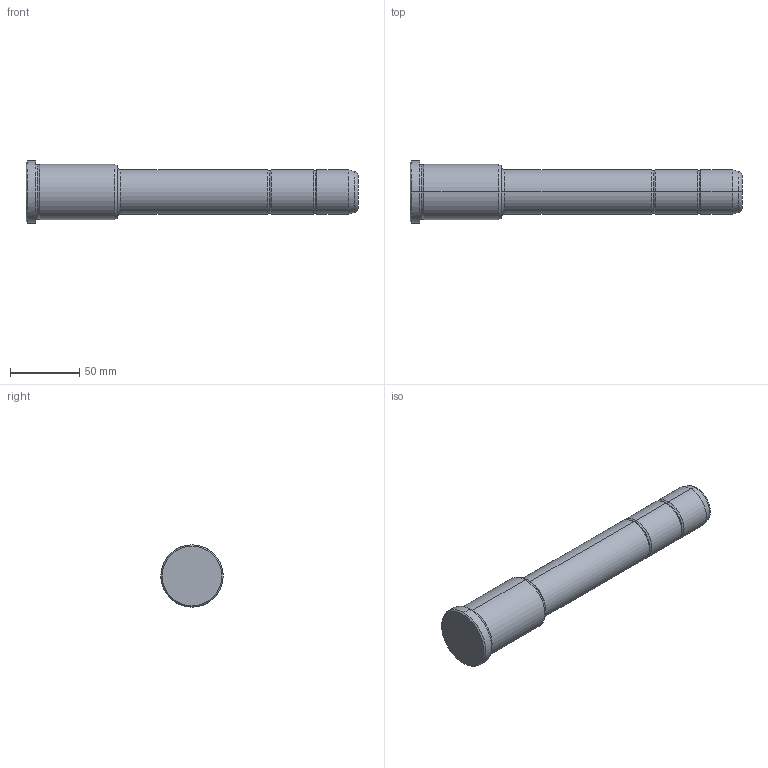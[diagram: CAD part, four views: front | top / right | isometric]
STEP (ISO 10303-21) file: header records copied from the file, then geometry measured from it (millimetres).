
FILE_DESCRIPTION(('CATIA V5 STEP Exchange'),'2;1');
FILE_NAME('C:\Users\Utente\Desktop\IO LAVORO\3D X SITO CF\X SITO\PLASTICA\351\351-32X66X240.stp','2021-09-07T12:26:36+00:00',('none'),('none'),'CATIA Version 5 Release 20 GA (IN-10)','CATIA V5 STEP AP203','none');
FILE_SCHEMA(('CONFIG_CONTROL_DESIGN'));
Length unit declared in the file: millimetre
Products named in the file (1): 351-32X66X240
Bounding box: 240 x 45 x 45 mm (x, y, z)
Volume: 224008.5 mm3; surface area: 28647.7 mm2
Topology: 1 solids, 1 shells, 36 faces, 102 edges, 70 vertices
Faces by surface type: torus 16, cylinder 10, cone 6, plane 4
Entity records: 1292 total; most frequent: CARTESIAN_POINT 321, ORIENTED_EDGE 204, DIRECTION 166, AXIS2_PLACEMENT_3D 115, EDGE_CURVE 102, CIRCLE 78, VERTEX_POINT 70, EDGE_LOOP 38
